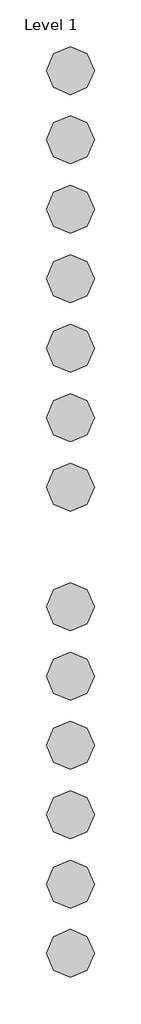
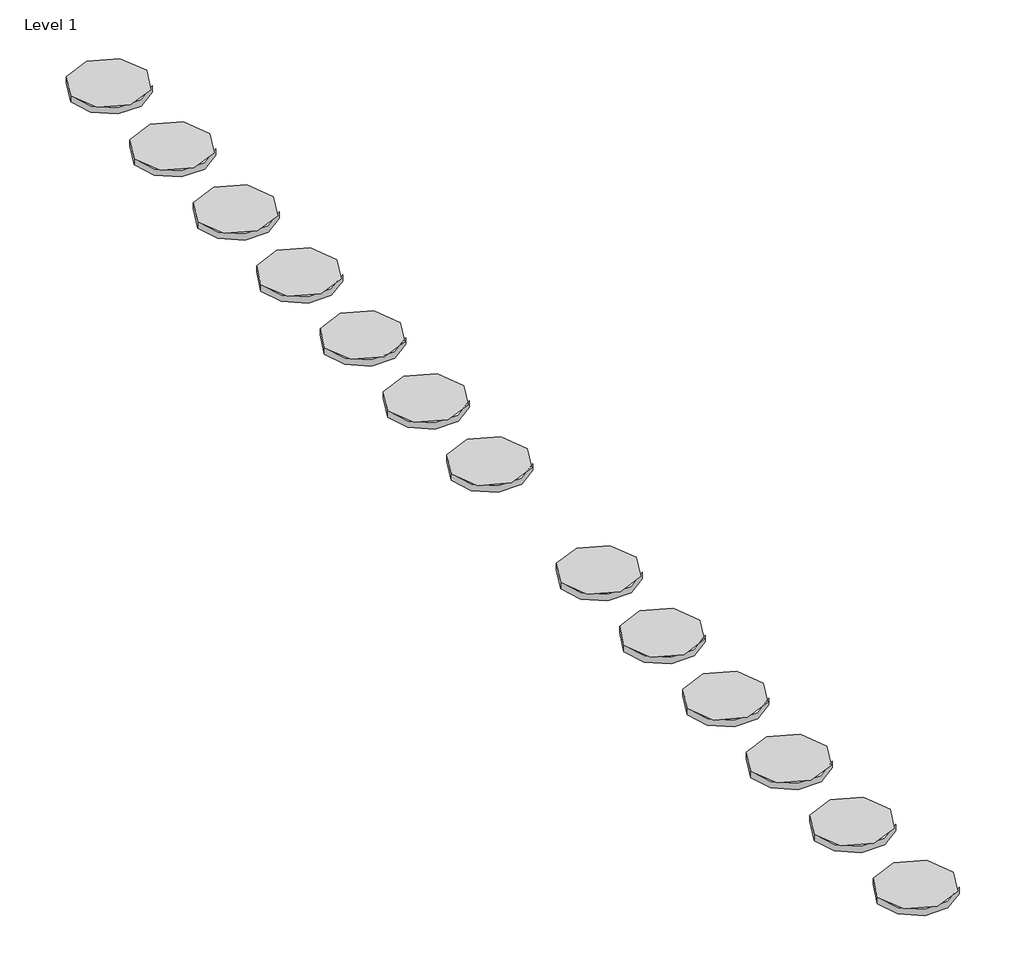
# One storey, incomplete: 13 proxies.
"""IFC4 building model written with IfcOpenShell, lengths in millimetres."""

from ifc_helpers import new_model, si_unit, origin, place, context, project, spatial, transform, mapped, element, save
from components import materialmodel_materialmodel_e4bf98eb

model = new_model("IFC4")

# Units and contexts
model_context = context("Model", 3, world=origin())
ifc_project = project(units=[si_unit("LENGTHUNIT", "METRE", prefix="MILLI")], contexts=[model_context])

# Site, building, storey
site = spatial("IfcSite", under=ifc_project)
building = spatial("IfcBuilding", under=site)
storey = spatial("IfcBuildingStorey", under=building, Name="Level 1", Elevation=0.0)

# Proxies
placement = place(None, origin())
materialmodel_materialmodel_shape = materialmodel_materialmodel_e4bf98eb(model_context)
element("IfcBuildingElementProxy", 1, Name="MaterialModel : MaterialModel", ObjectType="MaterialModel : MaterialModel", at=placement, inside=storey, context=model_context, shape_type="MappedRepresentation", body=[
    mapped(materialmodel_materialmodel_shape, transform((-15689.8748149, 12273.1161723, 0.0), x_axis=(1.0, 0.0, 0.0), y_axis=(0.0, 1.0, 0.0), z_axis=(0.0, 0.0, 1.0))),
])
element("IfcBuildingElementProxy", 2, Name="MaterialModel : MaterialModel", ObjectType="MaterialModel : MaterialModel", at=placement, inside=storey, context=model_context, shape_type="MappedRepresentation", body=[
    mapped(materialmodel_materialmodel_shape, transform((-15689.8748149, 12142.981603, 0.0), x_axis=(1.0, 0.0, 0.0), y_axis=(0.0, 1.0, 0.0), z_axis=(0.0, 0.0, 1.0))),
])
element("IfcBuildingElementProxy", 3, Name="MaterialModel : MaterialModel", ObjectType="MaterialModel : MaterialModel", at=placement, inside=storey, context=model_context, shape_type="MappedRepresentation", body=[
    mapped(materialmodel_materialmodel_shape, transform((-15689.8748149, 12012.8470337, 0.0), x_axis=(1.0, 0.0, 0.0), y_axis=(0.0, 1.0, 0.0), z_axis=(0.0, 0.0, 1.0))),
])
element("IfcBuildingElementProxy", 4, Name="MaterialModel : MaterialModel", ObjectType="MaterialModel : MaterialModel", at=placement, inside=storey, context=model_context, shape_type="MappedRepresentation", body=[
    mapped(materialmodel_materialmodel_shape, transform((-15689.8748149, 11882.7124645, 0.0), x_axis=(1.0, 0.0, 0.0), y_axis=(0.0, 1.0, 0.0), z_axis=(0.0, 0.0, 1.0))),
])
element("IfcBuildingElementProxy", 5, Name="MaterialModel : MaterialModel", ObjectType="MaterialModel : MaterialModel", at=placement, inside=storey, context=model_context, shape_type="MappedRepresentation", body=[
    mapped(materialmodel_materialmodel_shape, transform((-15689.8748149, 11752.5778952, 0.0), x_axis=(1.0, 0.0, 0.0), y_axis=(0.0, 1.0, 0.0), z_axis=(0.0, 0.0, 1.0))),
])
element("IfcBuildingElementProxy", 6, Name="MaterialModel : MaterialModel", ObjectType="MaterialModel : MaterialModel", at=placement, inside=storey, context=model_context, shape_type="MappedRepresentation", body=[
    mapped(materialmodel_materialmodel_shape, transform((-15689.8748149, 11622.4433259, 0.0), x_axis=(1.0, 0.0, 0.0), y_axis=(0.0, 1.0, 0.0), z_axis=(0.0, 0.0, 1.0))),
])
element("IfcBuildingElementProxy", 7, Name="MaterialModel : MaterialModel", ObjectType="MaterialModel : MaterialModel", at=placement, inside=storey, context=model_context, shape_type="MappedRepresentation", body=[
    mapped(materialmodel_materialmodel_shape, transform((-15689.8748149, 13279.1185961, 0.0), x_axis=(1.0, 0.0, 0.0), y_axis=(0.0, 1.0, 0.0), z_axis=(0.0, 0.0, 1.0))),
])
element("IfcBuildingElementProxy", 8, Name="MaterialModel : MaterialModel", ObjectType="MaterialModel : MaterialModel", at=placement, inside=storey, context=model_context, shape_type="MappedRepresentation", body=[
    mapped(materialmodel_materialmodel_shape, transform((-15689.8748149, 13148.8494575, 0.0), x_axis=(1.0, 0.0, 0.0), y_axis=(0.0, 1.0, 0.0), z_axis=(0.0, 0.0, 1.0))),
])
element("IfcBuildingElementProxy", 9, Name="MaterialModel : MaterialModel", ObjectType="MaterialModel : MaterialModel", at=placement, inside=storey, context=model_context, shape_type="MappedRepresentation", body=[
    mapped(materialmodel_materialmodel_shape, transform((-15689.8748149, 13018.580319, 0.0), x_axis=(1.0, 0.0, 0.0), y_axis=(0.0, 1.0, 0.0), z_axis=(0.0, 0.0, 1.0))),
])
element("IfcBuildingElementProxy", 10, Name="MaterialModel : MaterialModel", ObjectType="MaterialModel : MaterialModel", at=placement, inside=storey, context=model_context, shape_type="MappedRepresentation", body=[
    mapped(materialmodel_materialmodel_shape, transform((-15689.8748149, 12888.3111804, 0.0), x_axis=(1.0, 0.0, 0.0), y_axis=(0.0, 1.0, 0.0), z_axis=(0.0, 0.0, 1.0))),
])
element("IfcBuildingElementProxy", 11, Name="MaterialModel : MaterialModel", ObjectType="MaterialModel : MaterialModel", at=placement, inside=storey, context=model_context, shape_type="MappedRepresentation", body=[
    mapped(materialmodel_materialmodel_shape, transform((-15689.8748149, 12758.0420419, 0.0), x_axis=(1.0, 0.0, 0.0), y_axis=(0.0, 1.0, 0.0), z_axis=(0.0, 0.0, 1.0))),
])
element("IfcBuildingElementProxy", 12, Name="MaterialModel : MaterialModel", ObjectType="MaterialModel : MaterialModel", at=placement, inside=storey, context=model_context, shape_type="MappedRepresentation", body=[
    mapped(materialmodel_materialmodel_shape, transform((-15689.8748149, 12497.5037648, 0.0), x_axis=(1.0, 0.0, 0.0), y_axis=(0.0, 1.0, 0.0), z_axis=(0.0, 0.0, 1.0))),
])
element("IfcBuildingElementProxy", 13, Name="MaterialModel : MaterialModel", ObjectType="MaterialModel : MaterialModel", at=placement, inside=storey, context=model_context, shape_type="MappedRepresentation", body=[
    mapped(materialmodel_materialmodel_shape, transform((-15689.8748149, 12627.7729033, 0.0), x_axis=(1.0, 0.0, 0.0), y_axis=(0.0, 1.0, 0.0), z_axis=(0.0, 0.0, 1.0))),
])

save(model, "model.ifc")
